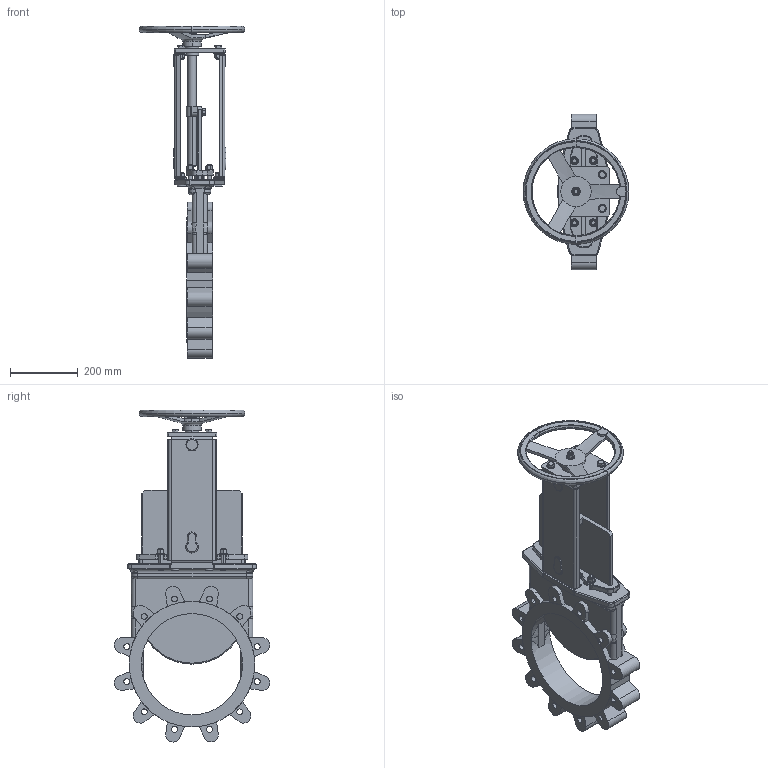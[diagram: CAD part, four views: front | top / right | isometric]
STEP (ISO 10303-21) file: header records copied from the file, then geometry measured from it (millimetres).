
FILE_DESCRIPTION(('STEP AP203'),'1');
FILE_NAME('G:/KONSTRUK/3-d block för CD/WB VALVE/HAND WHEEL/300/WB14-DN300-HW.stp','2012-11-30T13:31:39',(' '),(' '),'Spatial InterOp 3D',' ',' ');
FILE_SCHEMA(('CONFIG_CONTROL_DESIGN'));
Length unit declared in the file: millimetre
Products named in the file (7): 1; 2; 3; 4; 5; 6; 7
Bounding box: 313 x 461.28 x 983.64 mm (x, y, z)
Volume: 10502337.1 mm3; surface area: 1304343.4 mm2
Topology: 7 solids, 15 shells, 1260 faces, 3003 edges, 1858 vertices
Faces by surface type: plane 496, cylinder 389, cone 261, torus 78, bspline 20, sphere 16
Entity records: 46681 total; most frequent: CARTESIAN_POINT 17104, DIRECTION 6301, ORIENTED_EDGE 5974, EDGE_CURVE 2987, AXIS2_PLACEMENT_3D 2501, VERTEX_POINT 1858, EDGE_LOOP 1411, LINE 1299
